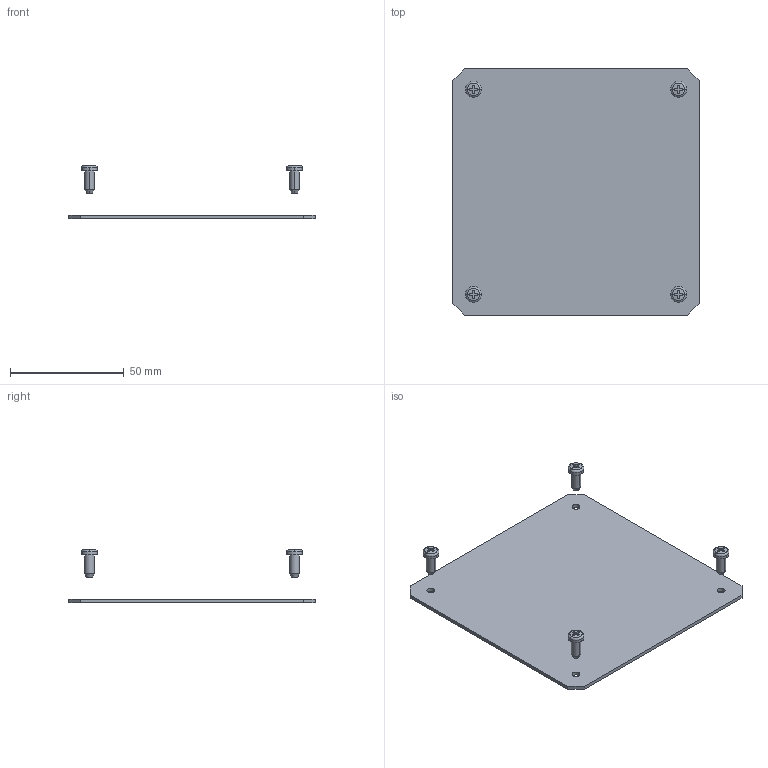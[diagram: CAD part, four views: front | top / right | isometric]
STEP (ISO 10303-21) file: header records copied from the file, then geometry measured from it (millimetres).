
FILE_DESCRIPTION(('Creo Elements/Direct Modeling STEP Export'),'2;1');
FILE_NAME('H09-0019-CL401_MB-WLQ135A.stp','2012-02-15T14:35:04',(''),(''),'Creo Elements/Direct Modeling STEP processor for AP214 (Solid Model)','Creo Elements/Direct Modeling 18.0B 02-Dec-2011 (C) Parametric Technology GmbH','');
FILE_SCHEMA(('AUTOMOTIVE_DESIGN { 1 0 10303 214 1 1 1 1 }'));
Length unit declared in the file: millimetre
Products named in the file (6): MB-WLQ135A; タッピングねじ.4; タッピングねじ.1; タッピングねじ.2; タッピングねじ.3
Assembly tree (4 placements, depth 2):
  MB-WLQ135A
  タッピングねじ.1
    タッピングねじ.4
  タッピングねじ.2
    タッピングねじ.4
  タッピングねじ.3
    タッピングねじ.4
  タッピングねじ.4
    タッピングねじ.4
Bounding box: 108 x 108 x 23.62 mm (x, y, z)
Volume: 19355.4 mm3; surface area: 24919.3 mm2
Topology: 5 solids, 5 shells, 134 faces, 360 edges, 240 vertices
Faces by surface type: plane 70, cylinder 40, cone 8, torus 8, sphere 8
Entity records: 1702 total; most frequent: CARTESIAN_POINT 408, ORIENTED_EDGE 252, DIRECTION 238, EDGE_CURVE 126, AXIS2_PLACEMENT_3D 86, VERTEX_POINT 84, VECTOR 66, LINE 66
